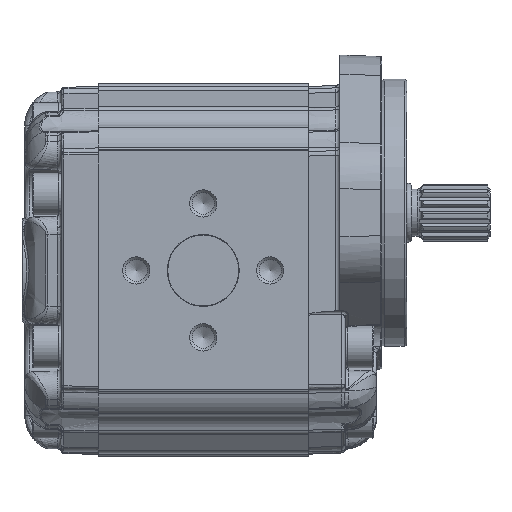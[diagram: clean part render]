
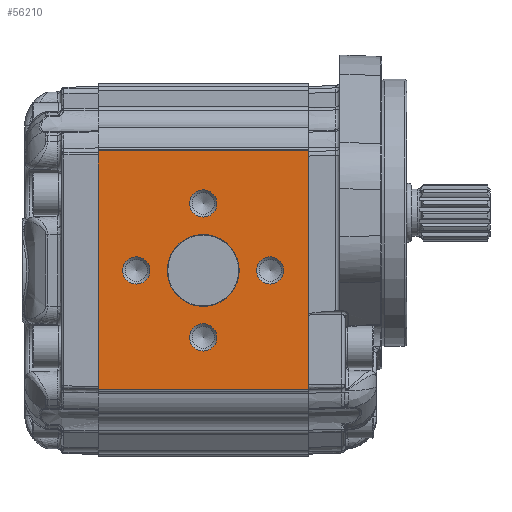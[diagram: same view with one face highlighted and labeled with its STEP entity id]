
A CAD part, left-side view. The second image highlights one B-rep face of the part: STEP entity #56210.
In plain terms, the highlighted planar face has unit normal (-1, 0, 0).
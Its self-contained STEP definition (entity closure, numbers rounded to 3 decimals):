
#6456=LINE('',#106784,#8090);
#6467=LINE('',#106869,#8101);
#6505=LINE('',#106977,#8139);
#6506=LINE('',#106978,#8140);
#8090=VECTOR('',#62860,1000.);
#8101=VECTOR('',#62935,1000.);
#8139=VECTOR('',#63061,1000.);
#8140=VECTOR('',#63062,1000.);
#14102=ORIENTED_EDGE('',*,*,#23723,.T.);
#14103=ORIENTED_EDGE('',*,*,#23724,.T.);
#14104=ORIENTED_EDGE('',*,*,#23725,.T.);
#14105=ORIENTED_EDGE('',*,*,#23726,.T.);
#14106=ORIENTED_EDGE('',*,*,#23727,.T.);
#14107=ORIENTED_EDGE('',*,*,#23627,.F.);
#14108=ORIENTED_EDGE('',*,*,#23728,.T.);
#14109=ORIENTED_EDGE('',*,*,#23669,.F.);
#14110=ORIENTED_EDGE('',*,*,#23729,.T.);
#23627=EDGE_CURVE('',#28762,#28763,#6456,.T.);
#23669=EDGE_CURVE('',#28804,#28805,#6467,.T.);
#23723=EDGE_CURVE('',#28826,#28826,#31617,.F.);
#23724=EDGE_CURVE('',#28827,#28827,#31618,.F.);
#23725=EDGE_CURVE('',#28828,#28828,#31619,.F.);
#23726=EDGE_CURVE('',#28829,#28829,#31620,.F.);
#23727=EDGE_CURVE('',#28830,#28830,#31621,.F.);
#23728=EDGE_CURVE('',#28762,#28805,#6505,.F.);
#23729=EDGE_CURVE('',#28804,#28763,#6506,.F.);
#28762=VERTEX_POINT('',#106783);
#28763=VERTEX_POINT('',#106785);
#28804=VERTEX_POINT('',#106868);
#28805=VERTEX_POINT('',#106870);
#28826=VERTEX_POINT('',#106968);
#28827=VERTEX_POINT('',#106970);
#28828=VERTEX_POINT('',#106972);
#28829=VERTEX_POINT('',#106974);
#28830=VERTEX_POINT('',#106976);
#31617=CIRCLE('',#58879,5.188);
#31618=CIRCLE('',#58880,5.188);
#31619=CIRCLE('',#58881,5.188);
#31620=CIRCLE('',#58882,5.188);
#31621=CIRCLE('',#58883,13.7);
#32946=EDGE_LOOP('',(#14102));
#32947=EDGE_LOOP('',(#14103));
#32948=EDGE_LOOP('',(#14104));
#32949=EDGE_LOOP('',(#14105));
#32950=EDGE_LOOP('',(#14106));
#32951=EDGE_LOOP('',(#14107,#14108,#14109,#14110));
#35666=FACE_BOUND('',#32946,.T.);
#35667=FACE_BOUND('',#32947,.T.);
#35668=FACE_BOUND('',#32948,.T.);
#35669=FACE_BOUND('',#32949,.T.);
#35670=FACE_BOUND('',#32950,.T.);
#35671=FACE_BOUND('',#32951,.T.);
#37485=PLANE('',#58878);
#56210=ADVANCED_FACE('',(#35666,#35667,#35668,#35669,#35670,#35671),#37485,
 .T.);
#58878=AXIS2_PLACEMENT_3D('',#106966,#63049,#63050);
#58879=AXIS2_PLACEMENT_3D('',#106967,#63051,#63052);
#58880=AXIS2_PLACEMENT_3D('',#106969,#63053,#63054);
#58881=AXIS2_PLACEMENT_3D('',#106971,#63055,#63056);
#58882=AXIS2_PLACEMENT_3D('',#106973,#63057,#63058);
#58883=AXIS2_PLACEMENT_3D('',#106975,#63059,#63060);
#62860=DIRECTION('',(0.,0.,1.));
#62935=DIRECTION('',(0.,0.,-1.));
#63049=DIRECTION('',(-1.,0.,0.));
#63050=DIRECTION('',(0.,0.,-1.));
#63051=DIRECTION('',(-1.,0.,0.));
#63052=DIRECTION('',(0.,0.,-1.));
#63053=DIRECTION('',(-1.,0.,0.));
#63054=DIRECTION('',(0.,0.,-1.));
#63055=DIRECTION('',(-1.,0.,0.));
#63056=DIRECTION('',(0.,0.,-1.));
#63057=DIRECTION('',(-1.,0.,0.));
#63058=DIRECTION('',(0.,0.,-1.));
#63059=DIRECTION('',(-1.,0.,0.));
#63060=DIRECTION('',(0.,0.,-1.));
#63061=DIRECTION('',(0.,1.,0.));
#63062=DIRECTION('',(0.,-1.,0.));
#106783=CARTESIAN_POINT('',(-57.5,80.,-45.5));
#106784=CARTESIAN_POINT('',(-57.5,80.,-84.819));
#106785=CARTESIAN_POINT('',(-57.5,80.,45.5));
#106868=CARTESIAN_POINT('',(-57.5,0.,45.5));
#106869=CARTESIAN_POINT('',(-57.5,0.,-44.978));
#106870=CARTESIAN_POINT('',(-57.5,0.,-45.5));
#106966=CARTESIAN_POINT('',(-57.5,-146.137,-84.819));
#106967=CARTESIAN_POINT('',(-57.5,40.,25.5));
#106968=CARTESIAN_POINT('',(-57.5,40.,20.312));
#106969=CARTESIAN_POINT('',(-57.5,65.5,0.));
#106970=CARTESIAN_POINT('',(-57.5,65.5,-5.188));
#106971=CARTESIAN_POINT('',(-57.5,40.,-25.5));
#106972=CARTESIAN_POINT('',(-57.5,40.,-30.688));
#106973=CARTESIAN_POINT('',(-57.5,14.5,0.));
#106974=CARTESIAN_POINT('',(-57.5,14.5,-5.188));
#106975=CARTESIAN_POINT('',(-57.5,40.,0.));
#106976=CARTESIAN_POINT('',(-57.5,40.,-13.7));
#106977=CARTESIAN_POINT('',(-57.5,-146.137,-45.5));
#106978=CARTESIAN_POINT('',(-57.5,-146.137,45.5));
